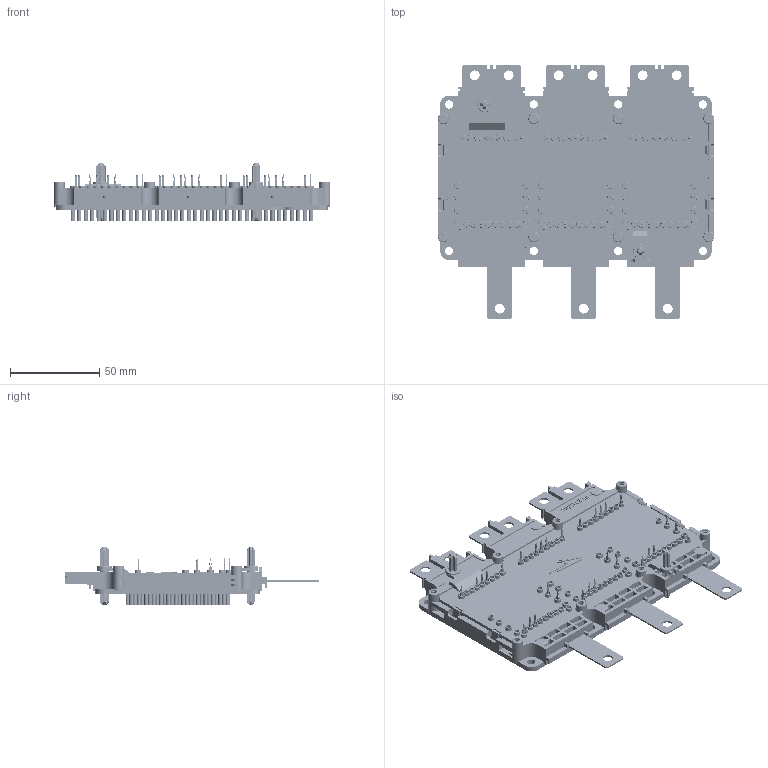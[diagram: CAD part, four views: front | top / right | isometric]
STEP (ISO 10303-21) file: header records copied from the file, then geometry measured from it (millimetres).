
FILE_DESCRIPTION (( 'STEP AP214' ), '1' );
FILE_NAME ('YM_Long_terminals_.STEP', '2024-03-11T16:57:22', ( '' ), ( '' ), 'SwSTEP 2.0', 'SolidWorks 2022', '' );
FILE_SCHEMA (( 'AUTOMOTIVE_DESIGN' ));
Length unit declared in the file: millimetre
Products named in the file (1): YM_Long_terminals_
Bounding box: 154.5 x 142.5 x 32 mm (x, y, z)
Volume: 178168.6 mm3; surface area: 132254.8 mm2
Topology: 2 solids, 3 shells, 8106 faces, 20773 edges, 13364 vertices
Faces by surface type: cylinder 3588, plane 3163, torus 776, cone 397, bspline 182
Entity records: 361590 total; most frequent: CARTESIAN_POINT 72866, DIRECTION 42090, ORIENTED_EDGE 41506, EDGE_CURVE 20753, AXIS2_PLACEMENT_3D 15817, VERTEX_POINT 13364, VECTOR 10456, LINE 10456
